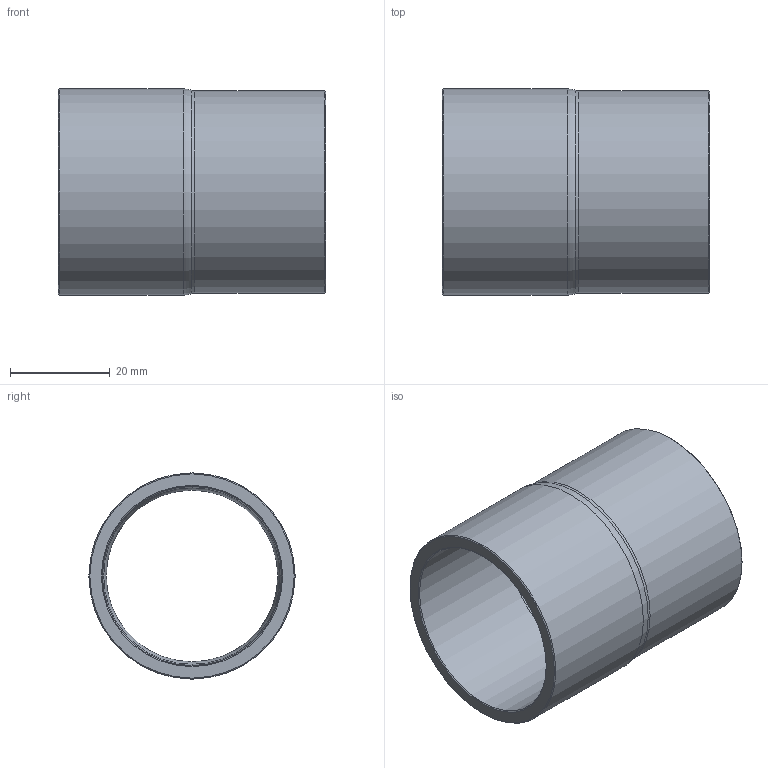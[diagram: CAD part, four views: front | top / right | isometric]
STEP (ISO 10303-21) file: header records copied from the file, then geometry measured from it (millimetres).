
FILE_DESCRIPTION((''),'2;1');
FILE_NAME('G:\SANHA-Ternat\Technik\Management\Bouwmaten + markeringen\z-maattekeningen 3D\29000s\29243158138_3d.stp','2017-08-04T08:14:17',('vdvijverd'),(''),'Autodesk Inventor 2009','Autodesk Inventor 2009','');
FILE_SCHEMA(('AUTOMOTIVE_DESIGN { 1 0 10303 214 1 1 1 1 }'));
Length unit declared in the file: millimetre
Products named in the file (1): 29243158138_3d
Bounding box: 53.5 x 41.27 x 41.27 mm (x, y, z)
Volume: 17452 mm3; surface area: 13443.8 mm2
Topology: 1 solids, 1 shells, 15 faces, 28 edges, 15 vertices
Faces by surface type: cone 4, cylinder 4, bspline 3, plane 2, torus 2
Full cylindrical faces by diameter (mm): 35.105 x1, 35.875 x1, 40.505 x1, 41.275 x1
Entity records: 454 total; most frequent: CARTESIAN_POINT 178, DIRECTION 56, ORIENTED_EDGE 30, EDGE_LOOP 30, AXIS2_PLACEMENT_3D 28, VERTEX_POINT 15, CIRCLE 15, EDGE_CURVE 15
